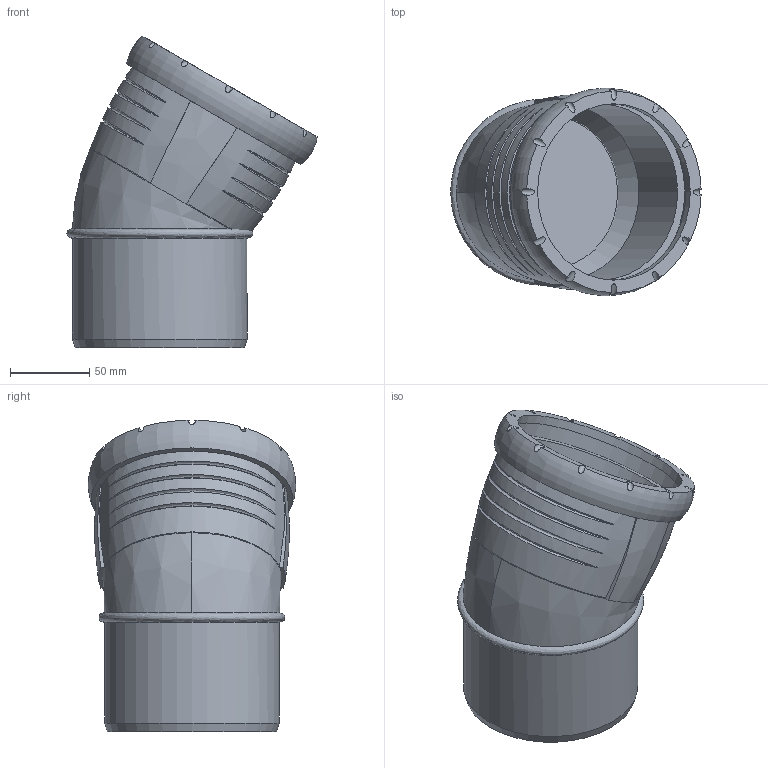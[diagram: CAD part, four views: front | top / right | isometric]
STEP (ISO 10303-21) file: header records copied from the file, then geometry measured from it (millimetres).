
FILE_DESCRIPTION(/* description */ (''),/* implementation_level */ '2;1');
FILE_NAME(/* name */ 'H:\Geberit-Teile\Export\Bogen_TEST\stp\393521.stp',/* time_stamp */ '2017-02-14T10:12:06+01:00',/* author */ ('seihe2'),/* organization */ (''),/* preprocessor_version */ 'ST-DEVELOPER v15.2',/* originating_system */ 'Autodesk Inventor 2014',/* authorisation */ '');
FILE_SCHEMA (('AUTOMOTIVE_DESIGN { 1 0 10303 214 3 1 1 }'));
Length unit declared in the file: millimetre
Products named in the file (1): 393521
Bounding box: 158 x 130.89 x 196.61 mm (x, y, z)
Volume: 549299.1 mm3; surface area: 148493.2 mm2
Topology: 2 solids, 2 shells, 55 faces, 136 edges, 96 vertices
Faces by surface type: bspline 26, cylinder 18, plane 8, cone 2, torus 1
Full cylindrical faces by diameter (mm): 101.2 x1, 110.2 x1, 111 x1, 111.3 x1, 121.5 x1
Entity records: 4182 total; most frequent: CARTESIAN_POINT 2983, ORIENTED_EDGE 252, DIRECTION 176, EDGE_CURVE 125, VERTEX_POINT 93, AXIS2_PLACEMENT_3D 88, EDGE_LOOP 77, B_SPLINE_CURVE_WITH_KNOTS 67
